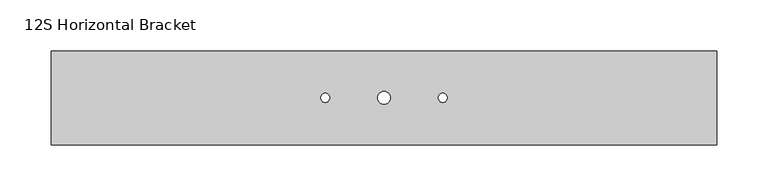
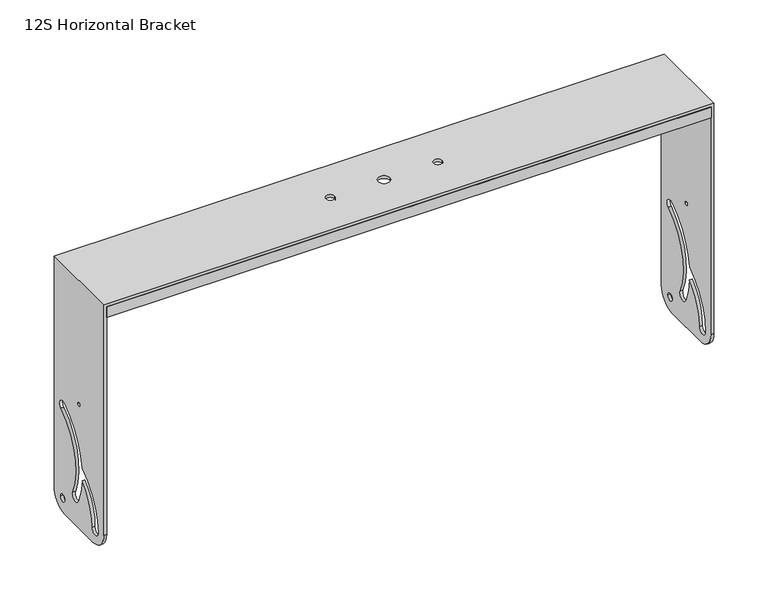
"""IFC4 building model written with IfcOpenShell, lengths in millimetres: proxy geometry, d&b xS-Series 12S Horizontal Bracket : 12S Horizontal Bracket."""

from ifc_helpers import new_model, si_unit, frame, origin, place, context, project, spatial, polyline, circle_curve, outline, extrude, source, transform, mapped, element, save
from ifc_brep_helpers import plane_surface, cylinder_surface, revolved_surface, advanced_brep


def proxy_12s_horizontal_bracket_cdcb445a(model_context):
    return source(origin(), model_context, "Body", "SolidModel", [
        extrude(outline(polyline([(-323.0, -65.7393957), (-323.0, -62.7393957), (323.0, -62.7393957), (323.0, -65.7393957), (-323.0, -65.7393957)])), frame((0.0, 0.0, 272.7707456), z_axis=(0.0, 0.0, 1.0), x_axis=(1.0, 0.0, 0.0)), (0.0, 0.0, 1.0), 12.0),
        extrude(outline(polyline([(-323.0, 23.2606043), (-323.0, 26.2606043), (323.0, 26.2606043), (323.0, 23.2606043), (-323.0, 23.2606043)])), frame((0.0, 0.0, 272.7707456), z_axis=(0.0, 0.0, 1.0), x_axis=(1.0, 0.0, 0.0)), (0.0, 0.0, 1.0), 12.0),
        advanced_brep(
        [(-323.0, 26.2606043, 284.7707456), (-323.0, 26.2606043, 27.7707456), (-326.0, 26.2606043, 27.7707456), (-326.0, 26.2606043, 287.7707456), (326.0, 26.2606043, 287.7707456), (326.0, 26.2606043, 27.7707456), (323.0, 26.2606043, 27.7707456), (323.0, 26.2606043, 284.7707456), (-326.0, -65.7393957, 287.7707456), (-326.0, -65.7393957, 27.7707456), (-323.0, -65.7393957, 27.7707456), (-323.0, -65.7393957, 284.7707456), (323.0, -65.7393957, 284.7707456), (323.0, -65.7393957, 27.7707456), (326.0, -65.7393957, 27.7707456), (326.0, -65.7393957, 287.7707456), (-326.0, 6.2606043, 7.7707456), (-323.0, 6.2606043, 7.7707456), (-323.0, -45.7393957, 7.7707456), (-326.0, -45.7393957, 7.7707456), (-323.0, 6.2606043, 23.7707456), (-323.0, 14.2606043, 23.7707456), (-323.0, -55.239364, 23.7891854), (-323.0, -25.0822236, 78.9466081), (-323.0, 7.223679, 132.2617377), (-323.0, 13.6600188, 123.3378724), (-323.0, -8.4105059, 41.8172211), (-323.0, -18.3552834, 37.1160087), (-323.0, -25.5071972, 64.9060793), (-323.0, -44.2393971, 23.7734128), (-323.0, -21.7393957, 147.7707456), (-323.0, -17.7393957, 147.7707456), (-6.25, -19.7393957, 284.7707456), (6.25, -19.7393957, 284.7707456), (-62.0, -19.7393957, 284.7707456), (-53.0, -19.7393957, 284.7707456), (62.0, -19.7393957, 284.7707456), (53.0, -19.7393957, 284.7707456), (323.0, 6.2606043, 7.7707456), (323.0, -45.7393957, 7.7707456), (323.0, 14.2606043, 23.7707456), (323.0, 6.2606043, 23.7707456), (323.0, -44.2393971, 23.7734128), (323.0, -25.5071972, 64.9060793), (323.0, -18.3552834, 37.1160087), (323.0, -8.4105059, 41.8172211), (323.0, 13.6600188, 123.3378724), (323.0, 7.2266422, 132.2574429), (323.0, -25.0822236, 78.9466081), (323.0, -55.239364, 23.7891854), (323.0, -17.7393957, 147.7707456), (323.0, -21.7393957, 147.7707456), (326.0, 6.2606043, 7.7707456), (326.0, -45.7393957, 7.7707456), (326.0, 6.2606043, 23.7707456), (326.0, 14.2606043, 23.7707456), (326.0, -55.239364, 23.7891854), (326.0, -25.0822236, 78.9466081), (326.0, 7.223679, 132.2617377), (326.0, 13.6600188, 123.3378724), (326.0, -8.4105059, 41.8172211), (326.0, -18.3552834, 37.1160087), (326.0, -25.5071972, 64.9060793), (326.0, -44.2393971, 23.7734128), (326.0, -21.7393957, 147.7707456), (326.0, -17.7393957, 147.7707456), (6.25, -19.7393957, 287.7707456), (-6.25, -19.7393957, 287.7707456), (-53.0, -19.7393957, 287.7707456), (-62.0, -19.7393957, 287.7707456), (53.0, -19.7393957, 287.7707456), (62.0, -19.7393957, 287.7707456), (-326.0, 14.2606043, 23.7707456), (-326.0, 6.2606043, 23.7707456), (-326.0, -44.2393971, 23.7734128), (-326.0, -25.5071972, 64.9060793), (-326.0, -18.3552834, 37.1160087), (-326.0, -8.4105059, 41.8172211), (-326.0, 13.6600188, 123.3378724), (-326.0, 7.2266422, 132.2574429), (-326.0, -25.0822236, 78.9466081), (-326.0, -55.239364, 23.7891854), (-326.0, -17.7393957, 147.7707456), (-326.0, -21.7393957, 147.7707456)],
        [
            (0, 1),
            (1, 2),
            (2, 3),
            (3, 4),
            (4, 5),
            (5, 6),
            (6, 7),
            (7, 0),
            (8, 9),
            (9, 10),
            (10, 11),
            (11, 12),
            (12, 13),
            (13, 14),
            (14, 15),
            (15, 8),
            (16, 17),
            (17, 18),
            (18, 19),
            (19, 16),
            (10, 18, circle_curve(frame((-323.0, -45.7393957, 27.7707456), z_axis=(1.0, 0.0, 0.0), x_axis=(0.0, 0.0, -1.0)), 20.0)),
            (17, 1, circle_curve(frame((-323.0, 6.2606043, 27.7707456), z_axis=(1.0, 0.0, 0.0), x_axis=(0.0, 0.0, -1.0)), 20.0)),
            (0, 11),
            (20, 21, circle_curve(frame((-323.0, 10.2606043, 23.7707456), z_axis=(-1.0, 0.0, 0.0), x_axis=(0.0, -1.0, 0.0)), 4.0)),
            (21, 20, circle_curve(frame((-323.0, 10.2606043, 23.7707456), z_axis=(-1.0, 0.0, 0.0), x_axis=(0.0, -1.0, 0.0)), 4.0)),
            (22, 23, circle_curve(frame((-323.0, 10.4991012, 23.6697649), z_axis=(-1.0, 0.0, 0.0), x_axis=(0.0, -1.0, 0.0)), 65.7385737)),
            (23, 24, circle_curve(frame((-323.0, 50.4326597, 69.6342558), z_axis=(-1.0, 0.0, 0.0), x_axis=(0.0, -1.0, 0.0)), 76.0869076)),
            (24, 25, circle_curve(frame((-323.0, 10.3500362, 127.7303677), z_axis=(-1.0, 0.0, 0.0), x_axis=(0.0, -1.0, 0.0)), 5.5)),
            (25, 26, circle_curve(frame((-323.0, 50.4326597, 69.6342558), z_axis=(1.0, 0.0, 0.0), x_axis=(0.0, -1.0, 0.0)), 65.0869077)),
            (26, 27, circle_curve(frame((-323.0, -13.3828946, 39.4666149), z_axis=(-1.0, 0.0, 0.0), x_axis=(0.0, -1.0, 0.0)), 5.5)),
            (27, 28, circle_curve(frame((-323.0, 50.4326597, 69.6342558), z_axis=(-1.0, 0.0, 0.0), x_axis=(0.0, -1.0, 0.0)), 76.0869077)),
            (28, 29, circle_curve(frame((-323.0, 10.2288078, 23.799827), z_axis=(1.0, 0.0, 0.0), x_axis=(0.0, -1.0, 0.0)), 54.4682113)),
            (29, 22, circle_curve(frame((-323.0, -49.7393957, 23.7707456), z_axis=(-1.0, 0.0, 0.0), x_axis=(0.0, -1.0, 0.0)), 5.4999992)),
            (30, 31, circle_curve(frame((-323.0, -19.7393957, 147.7707456), z_axis=(-1.0, 0.0, 0.0), x_axis=(0.0, -1.0, 0.0)), 2.0)),
            (31, 30, circle_curve(frame((-323.0, -19.7393957, 147.7707456), z_axis=(-1.0, 0.0, 0.0), x_axis=(0.0, -1.0, 0.0)), 2.0)),
            (7, 12),
            (32, 33, circle_curve(frame((0.0, -19.7393957, 284.7707456), z_axis=(0.0, 0.0, 1.0), x_axis=(1.0, 0.0, 0.0)), 6.25)),
            (33, 32, circle_curve(frame((0.0, -19.7393957, 284.7707456), z_axis=(0.0, 0.0, 1.0), x_axis=(1.0, 0.0, 0.0)), 6.25)),
            (34, 35, circle_curve(frame((-57.5, -19.7393957, 284.7707456), z_axis=(0.0, 0.0, 1.0), x_axis=(1.0, 0.0, 0.0)), 4.5)),
            (35, 34, circle_curve(frame((-57.5, -19.7393957, 284.7707456), z_axis=(0.0, 0.0, 1.0), x_axis=(1.0, 0.0, 0.0)), 4.5)),
            (36, 37, circle_curve(frame((57.5, -19.7393957, 284.7707456), z_axis=(0.0, 0.0, 1.0), x_axis=(-1.0, 0.0, 0.0)), 4.5)),
            (37, 36, circle_curve(frame((57.5, -19.7393957, 284.7707456), z_axis=(0.0, 0.0, 1.0), x_axis=(-1.0, 0.0, 0.0)), 4.5)),
            (6, 38, circle_curve(frame((323.0, 6.2606043, 27.7707456), z_axis=(-1.0, 0.0, 0.0), x_axis=(0.0, 0.0, -1.0)), 20.0)),
            (38, 39),
            (39, 13, circle_curve(frame((323.0, -45.7393957, 27.7707456), z_axis=(-1.0, 0.0, 0.0), x_axis=(0.0, 0.0, -1.0)), 20.0)),
            (40, 41, circle_curve(frame((323.0, 10.2606043, 23.7707456), z_axis=(1.0, 0.0, 0.0), x_axis=(0.0, -1.0, 0.0)), 4.0)),
            (41, 40, circle_curve(frame((323.0, 10.2606043, 23.7707456), z_axis=(1.0, 0.0, 0.0), x_axis=(0.0, -1.0, 0.0)), 4.0)),
            (42, 43, circle_curve(frame((323.0, 10.2288078, 23.799827), z_axis=(-1.0, 0.0, 0.0), x_axis=(0.0, -1.0, 0.0)), 54.4682113)),
            (43, 44, circle_curve(frame((323.0, 50.4326597, 69.6342558), z_axis=(1.0, 0.0, 0.0), x_axis=(0.0, -1.0, 0.0)), 76.0869077)),
            (44, 45, circle_curve(frame((323.0, -13.3828946, 39.4666149), z_axis=(1.0, 0.0, 0.0), x_axis=(0.0, -1.0, 0.0)), 5.5)),
            (45, 46, circle_curve(frame((323.0, 50.4326597, 69.6342558), z_axis=(-1.0, 0.0, 0.0), x_axis=(0.0, -1.0, 0.0)), 65.0869077)),
            (46, 47, circle_curve(frame((323.0, 10.3500362, 127.7303677), z_axis=(1.0, 0.0, 0.0), x_axis=(0.0, -1.0, 0.0)), 5.5)),
            (47, 48, circle_curve(frame((323.0, 50.4326597, 69.6342558), z_axis=(1.0, 0.0, 0.0), x_axis=(0.0, -1.0, 0.0)), 76.0869076)),
            (48, 49, circle_curve(frame((323.0, 10.4991012, 23.6697649), z_axis=(1.0, 0.0, 0.0), x_axis=(0.0, -1.0, 0.0)), 65.7385737)),
            (49, 42, circle_curve(frame((323.0, -49.7393957, 23.7707456), z_axis=(1.0, 0.0, 0.0), x_axis=(0.0, -1.0, 0.0)), 5.4999992)),
            (50, 51, circle_curve(frame((323.0, -19.7393957, 147.7707456), z_axis=(1.0, 0.0, 0.0), x_axis=(0.0, -1.0, 0.0)), 2.0)),
            (51, 50, circle_curve(frame((323.0, -19.7393957, 147.7707456), z_axis=(1.0, 0.0, 0.0), x_axis=(0.0, -1.0, 0.0)), 2.0)),
            (38, 52),
            (52, 53),
            (53, 39),
            (14, 53, circle_curve(frame((326.0, -45.7393957, 27.7707456), z_axis=(1.0, 0.0, 0.0), x_axis=(0.0, 0.0, -1.0)), 20.0)),
            (52, 5, circle_curve(frame((326.0, 6.2606043, 27.7707456), z_axis=(1.0, 0.0, 0.0), x_axis=(0.0, 0.0, -1.0)), 20.0)),
            (4, 15),
            (54, 55, circle_curve(frame((326.0, 10.2606043, 23.7707456), z_axis=(-1.0, 0.0, 0.0), x_axis=(0.0, -1.0, 0.0)), 4.0)),
            (55, 54, circle_curve(frame((326.0, 10.2606043, 23.7707456), z_axis=(-1.0, 0.0, 0.0), x_axis=(0.0, -1.0, 0.0)), 4.0)),
            (56, 57, circle_curve(frame((326.0, 10.4991012, 23.6697649), z_axis=(-1.0, 0.0, 0.0), x_axis=(0.0, -1.0, 0.0)), 65.7385737)),
            (57, 58, circle_curve(frame((326.0, 50.4326597, 69.6342558), z_axis=(-1.0, 0.0, 0.0), x_axis=(0.0, -1.0, 0.0)), 76.0869076)),
            (58, 59, circle_curve(frame((326.0, 10.3500362, 127.7303677), z_axis=(-1.0, 0.0, 0.0), x_axis=(0.0, -1.0, 0.0)), 5.5)),
            (59, 60, circle_curve(frame((326.0, 50.4326597, 69.6342558), z_axis=(1.0, 0.0, 0.0), x_axis=(0.0, -1.0, 0.0)), 65.0869077)),
            (60, 61, circle_curve(frame((326.0, -13.3828946, 39.4666149), z_axis=(-1.0, 0.0, 0.0), x_axis=(0.0, -1.0, 0.0)), 5.5)),
            (61, 62, circle_curve(frame((326.0, 50.4326597, 69.6342558), z_axis=(-1.0, 0.0, 0.0), x_axis=(0.0, -1.0, 0.0)), 76.0869077)),
            (62, 63, circle_curve(frame((326.0, 10.2288078, 23.799827), z_axis=(1.0, 0.0, 0.0), x_axis=(0.0, -1.0, 0.0)), 54.4682113)),
            (63, 56, circle_curve(frame((326.0, -49.7393957, 23.7707456), z_axis=(-1.0, 0.0, 0.0), x_axis=(0.0, -1.0, 0.0)), 5.4999992)),
            (64, 65, circle_curve(frame((326.0, -19.7393957, 147.7707456), z_axis=(-1.0, 0.0, 0.0), x_axis=(0.0, -1.0, 0.0)), 2.0)),
            (65, 64, circle_curve(frame((326.0, -19.7393957, 147.7707456), z_axis=(-1.0, 0.0, 0.0), x_axis=(0.0, -1.0, 0.0)), 2.0)),
            (3, 8),
            (66, 67, circle_curve(frame((0.0, -19.7393957, 287.7707456), z_axis=(0.0, 0.0, -1.0), x_axis=(1.0, 0.0, 0.0)), 6.25)),
            (67, 66, circle_curve(frame((0.0, -19.7393957, 287.7707456), z_axis=(0.0, 0.0, -1.0), x_axis=(1.0, 0.0, 0.0)), 6.25)),
            (68, 69, circle_curve(frame((-57.5, -19.7393957, 287.7707456), z_axis=(0.0, 0.0, -1.0), x_axis=(1.0, 0.0, 0.0)), 4.5)),
            (69, 68, circle_curve(frame((-57.5, -19.7393957, 287.7707456), z_axis=(0.0, 0.0, -1.0), x_axis=(1.0, 0.0, 0.0)), 4.5)),
            (70, 71, circle_curve(frame((57.5, -19.7393957, 287.7707456), z_axis=(0.0, 0.0, -1.0), x_axis=(-1.0, 0.0, 0.0)), 4.5)),
            (71, 70, circle_curve(frame((57.5, -19.7393957, 287.7707456), z_axis=(0.0, 0.0, -1.0), x_axis=(-1.0, 0.0, 0.0)), 4.5)),
            (2, 16, circle_curve(frame((-326.0, 6.2606043, 27.7707456), z_axis=(-1.0, 0.0, 0.0), x_axis=(0.0, 0.0, -1.0)), 20.0)),
            (19, 9, circle_curve(frame((-326.0, -45.7393957, 27.7707456), z_axis=(-1.0, 0.0, 0.0), x_axis=(0.0, 0.0, -1.0)), 20.0)),
            (72, 73, circle_curve(frame((-326.0, 10.2606043, 23.7707456), z_axis=(1.0, 0.0, 0.0), x_axis=(0.0, -1.0, 0.0)), 4.0)),
            (73, 72, circle_curve(frame((-326.0, 10.2606043, 23.7707456), z_axis=(1.0, 0.0, 0.0), x_axis=(0.0, -1.0, 0.0)), 4.0)),
            (74, 75, circle_curve(frame((-326.0, 10.2288078, 23.799827), z_axis=(-1.0, 0.0, 0.0), x_axis=(0.0, -1.0, 0.0)), 54.4682113)),
            (75, 76, circle_curve(frame((-326.0, 50.4326597, 69.6342558), z_axis=(1.0, 0.0, 0.0), x_axis=(0.0, -1.0, 0.0)), 76.0869077)),
            (76, 77, circle_curve(frame((-326.0, -13.3828946, 39.4666149), z_axis=(1.0, 0.0, 0.0), x_axis=(0.0, -1.0, 0.0)), 5.5)),
            (77, 78, circle_curve(frame((-326.0, 50.4326597, 69.6342558), z_axis=(-1.0, 0.0, 0.0), x_axis=(0.0, -1.0, 0.0)), 65.0869077)),
            (78, 79, circle_curve(frame((-326.0, 10.3500362, 127.7303677), z_axis=(1.0, 0.0, 0.0), x_axis=(0.0, -1.0, 0.0)), 5.5)),
            (79, 80, circle_curve(frame((-326.0, 50.4326597, 69.6342558), z_axis=(1.0, 0.0, 0.0), x_axis=(0.0, -1.0, 0.0)), 76.0869076)),
            (80, 81, circle_curve(frame((-326.0, 10.4991012, 23.6697649), z_axis=(1.0, 0.0, 0.0), x_axis=(0.0, -1.0, 0.0)), 65.7385737)),
            (81, 74, circle_curve(frame((-326.0, -49.7393957, 23.7707456), z_axis=(1.0, 0.0, 0.0), x_axis=(0.0, -1.0, 0.0)), 5.4999992)),
            (82, 83, circle_curve(frame((-326.0, -19.7393957, 147.7707456), z_axis=(1.0, 0.0, 0.0), x_axis=(0.0, -1.0, 0.0)), 2.0)),
            (83, 82, circle_curve(frame((-326.0, -19.7393957, 147.7707456), z_axis=(1.0, 0.0, 0.0), x_axis=(0.0, -1.0, 0.0)), 2.0)),
            (33, 66),
            (67, 32),
            (35, 68),
            (69, 34),
            (37, 70),
            (71, 36),
            (41, 54),
            (55, 40),
            (73, 20),
            (21, 72),
            (49, 56),
            (63, 42),
            (81, 22),
            (29, 74),
            (48, 57),
            (80, 23),
            (28, 75),
            (62, 43),
            (47, 58),
            (79, 24),
            (46, 59),
            (78, 25),
            (45, 60),
            (77, 26),
            (44, 61),
            (76, 27),
            (51, 64),
            (65, 50),
            (83, 30),
            (31, 82),
        ],
        [
            plane_surface(frame((-297.0, 26.2606043, 7.7707456), z_axis=(0.0, 1.0, 0.0), x_axis=(1.0, 0.0, 0.0))),
            plane_surface(frame((-297.0, -65.7393957, 7.7707456), z_axis=(0.0, -1.0, 0.0), x_axis=(-1.0, 0.0, 0.0))),
            plane_surface(frame((-326.0, 26.2606043, 7.7707456), z_axis=(0.0, 0.0, -1.0), x_axis=(0.0, -1.0, 0.0))),
            plane_surface(frame((-323.0, 26.2606043, 7.7707456), z_axis=(1.0, 0.0, 0.0), x_axis=(0.0, -1.0, 0.0))),
            plane_surface(frame((-323.0, 26.2606043, 284.7707456), z_axis=(0.0, 0.0, -1.0), x_axis=(0.0, -1.0, 0.0))),
            plane_surface(frame((323.0, 26.2606043, 284.7707456), z_axis=(-1.0, 0.0, 0.0), x_axis=(0.0, -1.0, 0.0))),
            plane_surface(frame((323.0, 26.2606043, 7.7707456), z_axis=(0.0, 0.0, -1.0), x_axis=(0.0, -1.0, 0.0))),
            plane_surface(frame((326.0, 26.2606043, 7.7707456), z_axis=(1.0, 0.0, 0.0), x_axis=(0.0, -1.0, 0.0))),
            plane_surface(frame((326.0, 26.2606043, 287.7707456), z_axis=(0.0, 0.0, 1.0), x_axis=(0.0, -1.0, 0.0))),
            plane_surface(frame((-326.0, 26.2606043, 287.7707456), z_axis=(-1.0, 0.0, 0.0), x_axis=(0.0, -1.0, 0.0))),
            cylinder_surface(frame((-400.0, 6.2606043, 27.7707456), z_axis=(-1.0, 0.0, 0.0), x_axis=(0.0, 0.0, -1.0)), 20.0),
            cylinder_surface(frame((0.0, -45.7393957, 27.7707456), z_axis=(-1.0, 0.0, 0.0), x_axis=(0.0, 0.0, -1.0)), 20.0),
            revolved_surface(polyline([(6.25, -19.7393957, 287.7707456), (6.25, -19.7393957, 284.7707456)]), (0.0, -19.7393957, 272.7707456), (0.0, 0.0, 1.0)),
            revolved_surface(polyline([(-53.0, -19.7393957, 287.7707456), (-53.0, -19.7393957, 284.7707456)]), (-57.5, -19.7393957, 287.7707456), (0.0, 0.0, 1.0)),
            revolved_surface(polyline([(53.0, -19.7393957, 287.7707456), (53.0, -19.7393957, 284.7707456)]), (57.5, -19.7393957, 287.7707456), (0.0, 0.0, 1.0)),
            revolved_surface(polyline([(326.0, 6.260604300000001, 23.7707456), (323.0, 6.260604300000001, 23.7707456)]), (-400.0, 10.2606043, 23.7707456), (1.0, 0.0, 0.0)),
            revolved_surface(polyline([(-323.0, 6.260604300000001, 23.7707456), (-326.0, 6.260604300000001, 23.7707456)]), (-400.0, 10.2606043, 23.7707456), (1.0, 0.0, 0.0)),
            revolved_surface(polyline([(326.0, -55.2393949, 23.7707456), (323.0, -55.2393949, 23.7707456)]), (0.0, -49.7393957, 23.7707456), (1.0, 0.0, 0.0)),
            revolved_surface(polyline([(-323.0, -55.2393949, 23.7707456), (-326.0, -55.2393949, 23.7707456)]), (0.0, -49.7393957, 23.7707456), (1.0, 0.0, 0.0)),
            revolved_surface(polyline([(326.0, -55.239472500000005, 23.6697649), (323.0, -55.239472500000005, 23.6697649)]), (0.0, 10.4991012, 23.6697649), (1.0, 0.0, 0.0)),
            revolved_surface(polyline([(-323.0, -55.239472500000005, 23.6697649), (-326.0, -55.239472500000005, 23.6697649)]), (0.0, 10.4991012, 23.6697649), (1.0, 0.0, 0.0)),
            cylinder_surface(frame((0.0, 10.2288078, 23.799827), z_axis=(-1.0, 0.0, 0.0), x_axis=(0.0, -1.0, 0.0)), 54.4682113),
            revolved_surface(polyline([(326.0, -25.6542479, 69.6342558), (323.0, -25.6542479, 69.6342558)]), (0.0, 50.4326597, 69.6342558), (1.0, 0.0, 0.0)),
            revolved_surface(polyline([(-323.0, -25.6542479, 69.6342558), (-326.0, -25.6542479, 69.6342558)]), (0.0, 50.4326597, 69.6342558), (1.0, 0.0, 0.0)),
            revolved_surface(polyline([(326.0, 4.8500362, 127.7303677), (323.0, 4.8500362, 127.7303677)]), (0.0, 10.3500362, 127.7303677), (1.0, 0.0, 0.0)),
            revolved_surface(polyline([(-323.0, 4.8500362, 127.7303677), (-326.0, 4.8500362, 127.7303677)]), (0.0, 10.3500362, 127.7303677), (1.0, 0.0, 0.0)),
            cylinder_surface(frame((0.0, 50.4326597, 69.6342558), z_axis=(-1.0, 0.0, 0.0), x_axis=(0.0, -1.0, 0.0)), 65.0869077),
            revolved_surface(polyline([(326.0, -18.8828946, 39.4666149), (323.0, -18.8828946, 39.4666149)]), (0.0, -13.3828946, 39.4666149), (1.0, 0.0, 0.0)),
            revolved_surface(polyline([(-323.0, -18.8828946, 39.4666149), (-326.0, -18.8828946, 39.4666149)]), (0.0, -13.3828946, 39.4666149), (1.0, 0.0, 0.0)),
            revolved_surface(polyline([(-323.0, -25.654247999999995, 69.6342558), (-326.0, -25.654247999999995, 69.6342558)]), (0.0, 50.4326597, 69.6342558), (1.0, 0.0, 0.0)),
            revolved_surface(polyline([(326.0, -25.654247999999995, 69.6342558), (323.0, -25.654247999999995, 69.6342558)]), (0.0, 50.4326597, 69.6342558), (1.0, 0.0, 0.0)),
            revolved_surface(polyline([(326.0, -21.7393957, 147.7707456), (323.0, -21.7393957, 147.7707456)]), (0.0, -19.7393957, 147.7707456), (1.0, 0.0, 0.0)),
            revolved_surface(polyline([(-323.0, -21.7393957, 147.7707456), (-326.0, -21.7393957, 147.7707456)]), (0.0, -19.7393957, 147.7707456), (1.0, 0.0, 0.0)),
        ],
        [
            (0, [[1, 2, 3, 4, 5, 6, 7, 8]]),
            (1, [[9, 10, 11, 12, 13, 14, 15, 16]]),
            (2, [[17, 18, 19, 20]]),
            (3, [[-11, 21, -18, 22, -1, 23], [24, 25], [26, 27, 28, 29, 30, 31, 32, 33], [34, 35]]),
            (4, [[36, -12, -23, -8], [37, 38], [39, 40], [41, 42]]),
            (5, [[-7, 43, 44, 45, -13, -36], [46, 47], [48, 49, 50, 51, 52, 53, 54, 55], [56, 57]]),
            (6, [[58, 59, 60, -44]]),
            (7, [[-15, 61, -59, 62, -5, 63], [64, 65], [66, 67, 68, 69, 70, 71, 72, 73], [74, 75]]),
            (8, [[76, -16, -63, -4], [77, 78], [79, 80], [81, 82]]),
            (9, [[-3, 83, -20, 84, -9, -76], [85, 86], [87, 88, 89, 90, 91, 92, 93, 94], [95, 96]]),
            (10, [[-22, -17, -83, -2]]),
            (10, [[-62, -58, -43, -6]]),
            (11, [[-45, -60, -61, -14]]),
            (11, [[-84, -19, -21, -10]]),
            (12, [[-38, 97, -78, 98]]),
            (12, [[-77, -97, -37, -98]]),
            (13, [[-40, 99, -80, 100]]),
            (13, [[-79, -99, -39, -100]]),
            (14, [[-42, 101, -82, 102]]),
            (14, [[-81, -101, -41, -102]]),
            (15, [[-47, 103, -65, 104]]),
            (16, [[-86, 105, -25, 106]]),
            (16, [[-24, -105, -85, -106]]),
            (15, [[-64, -103, -46, -104]]),
            (17, [[-55, 107, -73, 108]]),
            (18, [[-94, 109, -33, 110]]),
            (19, [[-54, 111, -66, -107]]),
            (20, [[-93, 112, -26, -109]]),
            (21, [[-32, 113, -87, -110]]),
            (21, [[-72, 114, -48, -108]]),
            (22, [[-53, 115, -67, -111]]),
            (23, [[-92, 116, -27, -112]]),
            (24, [[-52, 117, -68, -115]]),
            (25, [[-91, 118, -28, -116]]),
            (26, [[-51, 119, -69, -117]]),
            (26, [[-90, 120, -29, -118]]),
            (27, [[-50, 121, -70, -119]]),
            (28, [[-89, 122, -30, -120]]),
            (29, [[-31, -122, -88, -113]]),
            (30, [[-71, -121, -49, -114]]),
            (31, [[-57, 123, -75, 124]]),
            (32, [[-96, 125, -35, 126]]),
            (32, [[-34, -125, -95, -126]]),
            (31, [[-74, -123, -56, -124]]),
        ],
    ),
    ])


if __name__ == "__main__":
    model = new_model("IFC4")
    model_context = context("Model", 3, world=origin())
    ifc_project = project(units=[si_unit("LENGTHUNIT", "METRE", prefix="MILLI")], contexts=[model_context])
    site = spatial("IfcSite", under=ifc_project)
    building = spatial("IfcBuilding", under=site)
    placement = place(None, origin())
    proxy_12s_horizontal_bracket_shape = proxy_12s_horizontal_bracket_cdcb445a(model_context)
    element("IfcBuildingElementProxy", 1, Name="d&b xS-Series 12S Horizontal Bracket : 12S Horizontal Bracket", ObjectType="d&b xS-Series 12S Horizontal Bracket : 12S Horizontal Bracket", at=placement, inside=building, context=model_context, shape_type="MappedRepresentation", body=[
        mapped(proxy_12s_horizontal_bracket_shape, transform((0.0, 0.0, 0.0), x_axis=(1.0, 0.0, 0.0), y_axis=(0.0, 1.0, 0.0), z_axis=(0.0, 0.0, 1.0))),
    ])
    save(model, "model.ifc")
